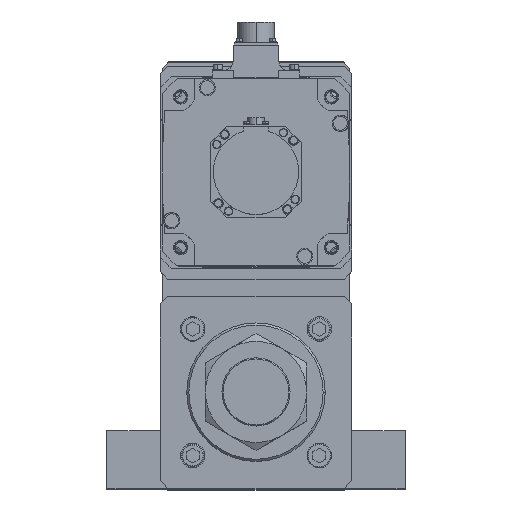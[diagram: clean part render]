
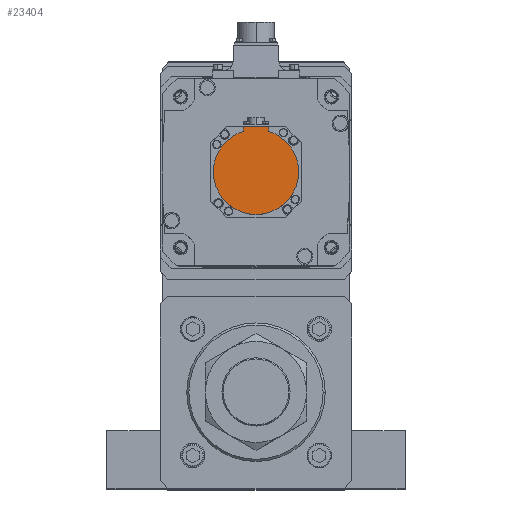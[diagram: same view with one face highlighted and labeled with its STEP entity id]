
A CAD part, top view. The second image highlights one B-rep face of the part: STEP entity #23404.
In plain terms, the highlighted planar face has unit normal (0, 0, 1) as drawn and (0, 0, -1) by its records, which use the part's own axes.
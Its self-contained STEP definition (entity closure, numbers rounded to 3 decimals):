
#964 = DIRECTION ( 'NONE',  ( 1., 0., 0. ) ) ;
#1079 = CARTESIAN_POINT ( 'NONE',  ( 0., 0., -178.5 ) ) ;
#2304 = VECTOR ( 'NONE', #10618, 1000. ) ;
#4618 = ORIENTED_EDGE ( 'NONE', *, *, #36411, .F. ) ;
#5462 = DIRECTION ( 'NONE',  ( 0., 0., 1. ) ) ;
#6131 = LINE ( 'NONE', #23832, #13193 ) ;
#6537 = VECTOR ( 'NONE', #14958, 1000. ) ;
#8219 = ORIENTED_EDGE ( 'NONE', *, *, #47826, .T. ) ;
#9185 = DIRECTION ( 'NONE',  ( 1., 0., 0. ) ) ;
#10618 = DIRECTION ( 'NONE',  ( 0., 1., 0. ) ) ;
#11661 = DIRECTION ( 'NONE',  ( 0., 1., 0. ) ) ;
#11940 = VERTEX_POINT ( 'NONE', #46934 ) ;
#12662 = VERTEX_POINT ( 'NONE', #47017 ) ;
#12768 = CARTESIAN_POINT ( 'NONE',  ( -12., -38.158, -178.5 ) ) ;
#12856 = ORIENTED_EDGE ( 'NONE', *, *, #46453, .F. ) ;
#13193 = VECTOR ( 'NONE', #11661, 1000. ) ;
#13322 = DIRECTION ( 'NONE',  ( 0., 0., 1. ) ) ;
#14958 = DIRECTION ( 'NONE',  ( -1., 0., 0. ) ) ;
#16309 = CARTESIAN_POINT ( 'NONE',  ( 0., 0., -178.5 ) ) ;
#18300 = CIRCLE ( 'NONE', #21831, 40. ) ;
#19731 = FACE_OUTER_BOUND ( 'NONE', #47405, .T. ) ;
#20803 = DIRECTION ( 'NONE',  ( 0., 0., 1. ) ) ;
#21831 = AXIS2_PLACEMENT_3D ( 'NONE', #16309, #20803, #49500 ) ;
#23404 = ADVANCED_FACE ( 'NONE', ( #19731 ), #26398, .F. ) ;
#23832 = CARTESIAN_POINT ( 'NONE',  ( 12., -1.249, -178.5 ) ) ;
#23936 = VERTEX_POINT ( 'NONE', #24756 ) ;
#24756 = CARTESIAN_POINT ( 'NONE',  ( 12., -42.5, -178.5 ) ) ;
#25008 = DIRECTION ( 'NONE',  ( 0., 0., 1. ) ) ;
#26398 = PLANE ( 'NONE',  #47587 ) ;
#26574 = CARTESIAN_POINT ( 'NONE',  ( -12., -40.329, -178.5 ) ) ;
#29753 = CIRCLE ( 'NONE', #40310, 40. ) ;
#29969 = CARTESIAN_POINT ( 'NONE',  ( 0., -1.249, -178.5 ) ) ;
#30145 = CARTESIAN_POINT ( 'NONE',  ( 40., 0., -178.5 ) ) ;
#31154 = ORIENTED_EDGE ( 'NONE', *, *, #33135, .F. ) ;
#31238 = ORIENTED_EDGE ( 'NONE', *, *, #45500, .T. ) ;
#31936 = VERTEX_POINT ( 'NONE', #35347 ) ;
#33135 = EDGE_CURVE ( 'NONE', #12662, #37875, #52669, .T. ) ;
#35347 = CARTESIAN_POINT ( 'NONE',  ( 12., -38.158, -178.5 ) ) ;
#35633 = LINE ( 'NONE', #26574, #2304 ) ;
#36411 = EDGE_CURVE ( 'NONE', #31936, #37328, #29753, .T. ) ;
#37328 = VERTEX_POINT ( 'NONE', #30145 ) ;
#37875 = VERTEX_POINT ( 'NONE', #12768 ) ;
#38553 = DIRECTION ( 'NONE',  ( 1., 0., 0. ) ) ;
#39480 = CARTESIAN_POINT ( 'NONE',  ( 0., -42.5, -178.5 ) ) ;
#40310 = AXIS2_PLACEMENT_3D ( 'NONE', #1079, #13322, #9185 ) ;
#41181 = LINE ( 'NONE', #39480, #6537 ) ;
#45500 = EDGE_CURVE ( 'NONE', #23936, #11940, #41181, .T. ) ;
#45600 = AXIS2_PLACEMENT_3D ( 'NONE', #50131, #25008, #964 ) ;
#46453 = EDGE_CURVE ( 'NONE', #23936, #31936, #6131, .T. ) ;
#46665 = EDGE_CURVE ( 'NONE', #37328, #12662, #18300, .T. ) ;
#46934 = CARTESIAN_POINT ( 'NONE',  ( -12., -42.5, -178.5 ) ) ;
#47017 = CARTESIAN_POINT ( 'NONE',  ( -40., 0., -178.5 ) ) ;
#47405 = EDGE_LOOP ( 'NONE', ( #8219, #31154, #52748, #4618, #12856, #31238 ) ) ;
#47587 = AXIS2_PLACEMENT_3D ( 'NONE', #29969, #5462, #38553 ) ;
#47826 = EDGE_CURVE ( 'NONE', #11940, #37875, #35633, .T. ) ;
#49500 = DIRECTION ( 'NONE',  ( 1., 0., 0. ) ) ;
#50131 = CARTESIAN_POINT ( 'NONE',  ( 0., 0., -178.5 ) ) ;
#52669 = CIRCLE ( 'NONE', #45600, 40. ) ;
#52748 = ORIENTED_EDGE ( 'NONE', *, *, #46665, .F. ) ;
